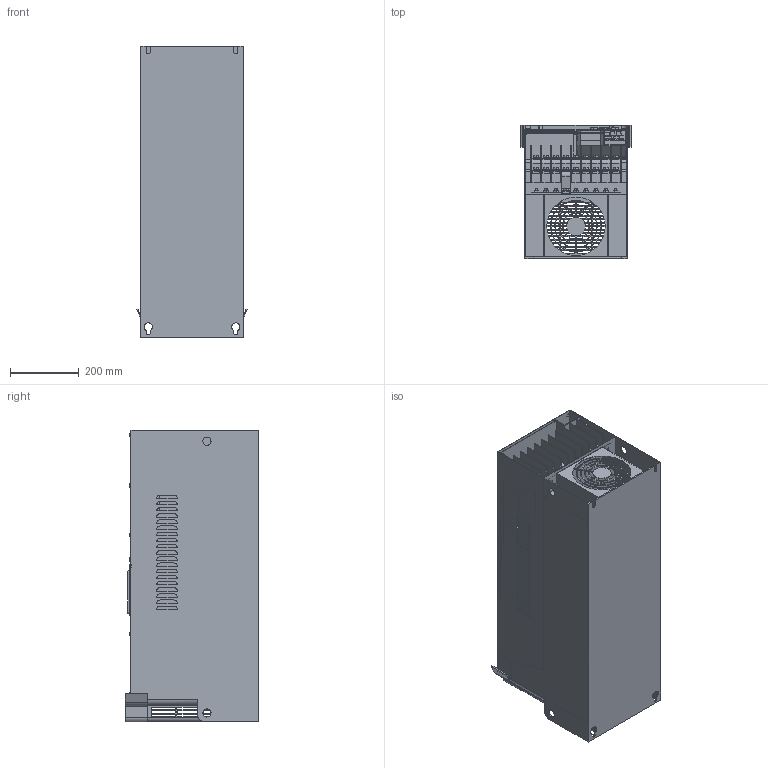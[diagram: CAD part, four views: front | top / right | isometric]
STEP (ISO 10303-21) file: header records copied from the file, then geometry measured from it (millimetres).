
FILE_DESCRIPTION((''),'2;1');
FILE_NAME('VFAS3_SA6_ASM','2016-09-05T',('SESA237464'),('Schneider-Electric'),'PRO/ENGINEER BY PARAMETRIC TECHNOLOGY CORPORATION, 2014310','PRO/ENGINEER BY PARAMETRIC TECHNOLOGY CORPORATION, 2014310','');
FILE_SCHEMA(('CONFIG_CONTROL_DESIGN'));
Products named in the file (12): PRT1001_2; PRT1010; PRT1011; PRT0001_3; PRT2001_1_1; PRT1012; PRT1014; PRT1015; PRT0004_1_1; PRT0010_1_2; PRT0011_1_1; VFAS3_SA6_ASM
Assembly tree (41 placements, depth 2):
  VFAS3_SA6_ASM
    PRT1001_2
    PRT1010  x2
    PRT1011  x7
    PRT0001_3
    PRT2001_1_1
    PRT1012
    PRT1014  x4
    PRT1015  x4
    PRT0004_1_1  x18
    PRT0010_1_2
    PRT0011_1_1
Bounding box: 322.24 x 390 x 852 mm (x, y, z)
Volume: 31117443.9 mm3; surface area: 3902762.9 mm2
Topology: 41 solids, 41 shells, 3194 faces, 8969 edges, 6009 vertices
Faces by surface type: plane 1929, cylinder 1126, cone 130, bspline 8, extrusion 1
Entity records: 84121 total; most frequent: CARTESIAN_POINT 15883, ORIENTED_EDGE 14304, DIRECTION 14170, EDGE_CURVE 7152, VERTEX_POINT 4887, AXIS2_PLACEMENT_3D 4828, VECTOR 4514, LINE 4513
